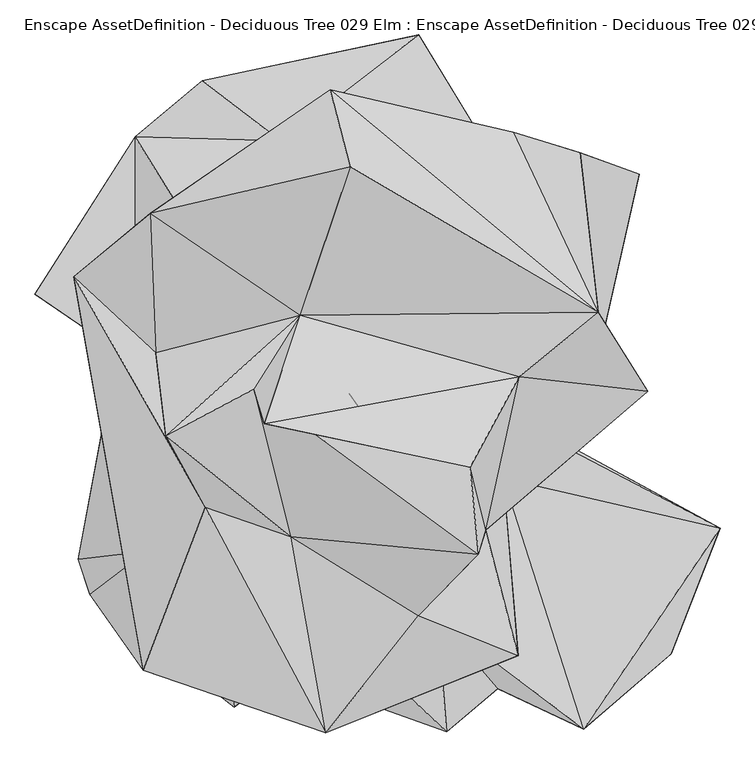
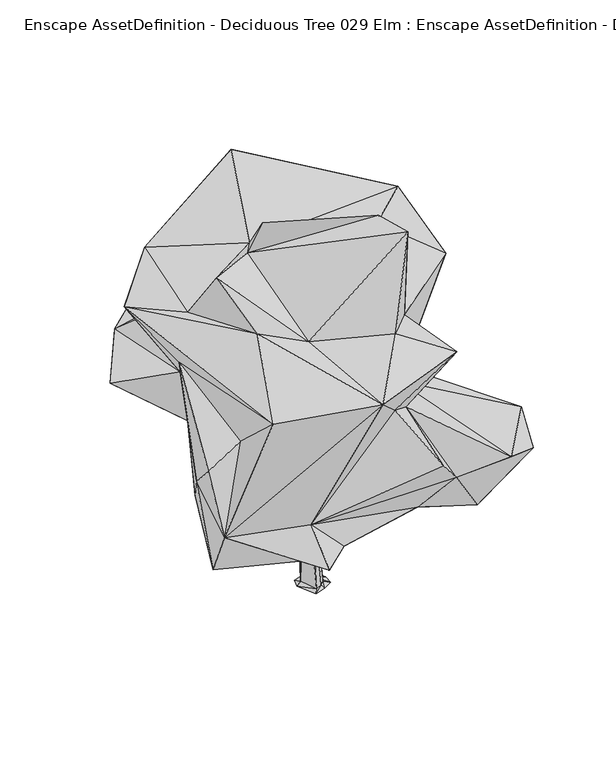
"""IFC4 building model written with IfcOpenShell, lengths in millimetres: geographic element geometry, Enscape AssetDefinition - Deciduous Tree 029 Elm : Enscape AssetDefinition - Deciduous Tree 029 Elm."""

from ifc_helpers import new_model, si_unit, origin, place, context, project, spatial, triangles, source, transform, mapped, element, save


def enscape_assetdefinition_deciduous_tree_029_elm_enscape_e4c49baf(model_context):
    return source(origin(), model_context, "Body", "Tessellation", [
        triangles([(375.0216585, -138.111846, -7.46e-05), (219.6287998, -107.962905, 63.327866), (391.4856245, 85.2279101, 4.6e-05), (173.7818344, 423.6344616, 0.0002288), (167.2728567, 107.3338464, 44.4670078), (22.5749779, 171.3340369, 3325.0688438), (88.0299102, 257.3416504, 34.0090955), (-14.1009868, 76.8111091, 3336.4207672), (161.2598516, -271.0346918, -0.0001464), (-88.1359175, -351.8476007, -0.00019), (122.2138883, -203.3707623, 61.3968202), (96.4399074, 167.1642151, 4788.8074059), (-94.2439113, 182.1882435, 4744.0735085), (-37.9929617, -287.8606997, 68.114765), (-186.9378264, 100.4228311, 80.1529564), (-137.9058629, 37.07717, 3309.5628136), (-241.4427662, 178.6620053, 3316.1987457), (-119.9948831, 187.4907542, 55.1230343), (-74.6759242, 364.8150141, 4752.3884079), (-185.2158385, 274.4608817, 3300.002932), (-284.2897512, 82.0549024, 4.43e-05), (-220.5847916, 292.2346514, 0.0001578), (22.5609776, 379.581918, 4774.4408409), (133.1158755, 261.6870974, 4777.4543198), (-87.9799223, 289.2288938, 3322.0550743), (-71.9809307, 74.1163063, 2984.1056442), (-5.6349946, 202.1981413, 2990.9366226), (1371.9207653, -744.6131979, 3865.8099655), (582.4144501, -122.948709, 3430.3475922), (519.1825175, -238.9385586, 3424.4607422), (-133.2738691, 99.5222138, 3086.5171257), (1425.666758, -646.3283541, 3870.7730347), (468.7085272, -217.1256459, 3533.4546707), (531.9414771, -101.134788, 3539.3418114), (-66.9279415, 227.6040397, 3093.3475227), (1480.502655, -670.0702188, 3754.5359436), (1426.7566624, -768.3550627, 3749.5720024), (111.2028962, 1285.4030811, 4368.7095016), (-9.5939911, 233.9455313, 4063.5999275), (-127.6338881, 240.8515051, 4077.5662262), (100.4259014, 1297.3134007, 4262.1517616), (-116.6448878, 219.8294779, 4175.3396187), (8.7809917, 1304.5133972, 4271.9912773), (1.3949987, 212.9244852, 4161.3750641), (19.5579836, 1292.6022057, 4378.5472733), (-80.0759171, 278.4468484, 3373.908886), (-631.5184296, 899.3844921, 4388.7553711), (-769.8592587, 895.5566008, 4285.9162994), (-683.0203732, 966.4245134, 4289.0806412), (-134.2538783, 116.8890044, 3454.4147278), (-189.8178105, 184.6869827, 3369.5248512), (-718.3573151, 828.5165068, 4385.590448), (-24.5139765, 210.6488791, 3458.7999252), (-2782.4801605, 548.6531387, 5948.0067078), (-2782.8173492, 3228.4671822, 5394.0323822), (-3971.055867, 1361.7315617, 5582.3110062), (-1863.6561573, 658.5106047, 4844.9597923), (-2599.8904335, 557.0898694, 4652.5831627), (-1673.2823124, 1019.7884073, 4384.276284), (-1735.6402794, 3157.8456207, 4049.1638901), (-865.5901886, 1599.8260403, 3706.2705757), (-1503.1466217, -69.7270802, 4006.0926819), (777.6062422, -216.8793128, 4776.8837151), (936.7791573, 2482.6368347, 4365.2152382), (325.1047199, 3203.942807, 3759.6272026), (2498.7474792, 3038.7444603, 6923.3931015), (1575.1794342, 2810.1287636, 5749.7536926), (1735.9052341, -91.3230776, 4028.9848892), (2397.4046825, -490.4989486, 4704.4483109), (3201.1796036, 2786.6944382, 4603.7750954), (2690.8973785, 523.9463983, 5467.3267456), (-1055.6620171, 3183.7437492, 5797.8618027), (-467.2735494, 3789.0771492, 7589.2617599), (1707.3123573, 3284.0335579, 6544.6330811), (1776.5181622, 381.0390965, 8168.0374786), (3304.1500626, 205.360957, 6989.9983383), (2715.1092728, 1142.408103, 8295.1337906), (1589.9714092, -822.1897127, 5018.7762177), (1377.9866741, -1440.6001488, 7124.7360443), (581.3434035, -2458.8743317, 7536.6574127), (-1372.3066429, 231.8230772, 8616.0275757), (-1249.2147377, -175.95999, 9575.3928543), (1193.6469086, -696.2181868, 9221.7045593), (1293.5427006, -1724.3230923, 9400.6424744), (-2417.7176868, -317.89633, 8696.6703278), (-934.5681004, -1520.0521305, 7309.3654724), (-2535.3934982, 665.8713472, 7279.3417236), (-1950.4171406, -1170.2258818, 7644.1363174), (-819.0981863, 1107.1173065, 8145.6202423), (-230.1757759, 2873.9405663, 9197.972287), (-2599.8587494, 2317.4659573, 7926.165033), (-1994.1322048, 1962.406089, 6574.14814), (-3509.2587639, 1569.0440529, 7203.287645), (-3128.7319908, -21.150569, 6649.9324677), (-3458.7766708, -1785.346693, 5106.6842239), (-2686.6086868, -3103.5460281, 6820.7237869), (-2645.8204788, -1690.6418633, 5524.7784714), (-2912.6460526, -293.1505112, 3418.3465805), (-3302.6126564, -1021.3462337, 4340.6213905), (-3257.3398384, -1626.9762726, 2480.7404388), (-1015.0740149, -1038.086273, 2881.0122276), (-1608.0505383, -3539.6281311, 3060.8471809), (-1270.1098286, -1757.6180077, 2081.9846912), (1209.9658253, -1198.5774216, 3347.1811569), (-999.7750214, -3089.8355278, 3174.3193245), (-3320.6917854, -2203.0243961, 3652.3651451), (-1676.3924423, -2907.579792, 3837.8878326), (174.9888283, -3138.5880753, 6184.3417007), (769.4292704, -3022.4111549, 3488.6100243), (2333.6236919, -2767.71362, 2839.0973442), (1521.6385162, -3320.3950012, 4144.7609619), (915.2591045, -3833.8409866, 4961.3477463), (810.5122278, -2489.4922302, 5655.1914413), (-522.1095191, -3848.0101799, 6997.8809967), (1762.7512699, -2928.521537, 6965.5818054), (2540.9606003, -3800.5479607, 4602.1685074), (3579.7797501, -2909.2532364, 3919.209613), (4160.3341393, -1417.1174252, 3834.06045), (2277.8688103, -1642.4487293, 3072.1723618), (584.5724216, 4436.8001129, 5394.3811981), (-1984.1261295, 3895.9976578, 5447.9424637)], [[121, 120, 60], [60, 55, 121], [121, 55, 72], [72, 120, 121], [92, 72, 55], [104, 68, 119], [78, 118, 69], [69, 118, 68], [68, 118, 119], [117, 119, 118], [116, 117, 118], [78, 116, 118], [113, 78, 115], [113, 116, 78], [97, 106, 96], [106, 114, 96], [115, 108, 113], [108, 115, 114], [108, 112, 113], [116, 111, 117], [112, 111, 113], [113, 111, 116], [119, 117, 110], [117, 111, 110], [110, 111, 109], [119, 110, 109], [107, 109, 111], [107, 112, 108], [107, 114, 106], [107, 108, 114], [112, 107, 111], [102, 107, 106], [105, 107, 102], [109, 107, 105], [119, 109, 105], [105, 104, 119], [101, 104, 105], [105, 102, 103], [101, 105, 103], [103, 102, 106], [103, 106, 100], [101, 98, 62], [101, 103, 98], [103, 100, 98], [100, 106, 99], [98, 100, 99], [97, 95, 106], [99, 106, 95], [96, 94, 97], [95, 97, 94], [95, 94, 99], [94, 96, 93], [92, 93, 91], [90, 73, 91], [72, 92, 91], [72, 91, 73], [89, 90, 91], [91, 93, 87], [89, 91, 87], [93, 88, 87], [96, 114, 88], [96, 88, 93], [85, 87, 88], [89, 87, 85], [85, 88, 86], [88, 114, 86], [115, 80, 114], [114, 80, 86], [86, 80, 84], [81, 85, 86], [89, 85, 81], [81, 86, 84], [82, 89, 81], [82, 81, 83], [83, 81, 84], [79, 84, 80], [79, 80, 115], [83, 84, 79], [78, 79, 115], [82, 75, 89], [83, 75, 82], [83, 79, 75], [79, 76, 75], [78, 76, 79], [78, 69, 71], [76, 78, 71], [77, 73, 90], [71, 77, 76], [75, 76, 77], [89, 75, 77], [77, 90, 89], [72, 73, 74], [77, 74, 73], [66, 74, 77], [66, 77, 71], [70, 66, 71], [71, 69, 70], [68, 70, 69], [66, 67, 74], [74, 67, 72], [70, 67, 66], [72, 67, 120], [65, 120, 67], [65, 60, 120], [65, 67, 64], [64, 70, 68], [67, 70, 64], [61, 65, 64], [61, 60, 65], [61, 64, 68], [63, 68, 104], [63, 61, 68], [63, 104, 101], [59, 101, 62], [63, 59, 61], [59, 60, 61], [98, 59, 62], [59, 63, 101], [60, 59, 57], [55, 60, 57], [59, 58, 57], [98, 99, 58], [98, 58, 59], [56, 57, 58], [55, 57, 56], [54, 93, 92], [92, 55, 54], [56, 58, 54], [54, 94, 93], [54, 99, 94], [58, 99, 54], [54, 55, 56], [53, 47, 52], [53, 52, 50], [50, 52, 48], [50, 48, 51], [51, 48, 49], [51, 49, 46], [46, 47, 53], [46, 49, 47], [44, 38, 45], [44, 45, 42], [42, 45, 43], [42, 43, 40], [40, 43, 41], [40, 41, 39], [39, 38, 44], [39, 41, 38], [29, 36, 37], [35, 29, 27], [34, 36, 29], [34, 32, 36], [35, 34, 29], [31, 34, 35], [33, 32, 34], [33, 28, 32], [31, 33, 34], [29, 37, 30], [30, 28, 33], [30, 37, 28], [27, 29, 30], [27, 30, 26], [26, 33, 31], [26, 30, 33], [6, 24, 12], [25, 24, 6], [25, 23, 24], [20, 23, 25], [20, 19, 23], [7, 20, 25], [7, 18, 20], [4, 18, 7], [4, 22, 18], [22, 15, 18], [22, 21, 15], [17, 19, 20], [18, 17, 20], [18, 15, 17], [17, 13, 19], [16, 13, 17], [15, 16, 17], [15, 14, 16], [21, 14, 15], [21, 10, 14], [8, 13, 16], [8, 12, 13], [6, 12, 8], [14, 8, 16], [14, 11, 8], [10, 11, 14], [10, 9, 11], [11, 2, 8], [2, 6, 8], [9, 2, 11], [5, 25, 6], [5, 7, 25], [2, 5, 6], [3, 7, 5], [3, 4, 7], [9, 1, 2], [1, 5, 2], [1, 3, 5]], closed=False),
    ])


if __name__ == "__main__":
    model = new_model("IFC4")
    model_context = context("Model", 3, world=origin())
    ifc_project = project(units=[si_unit("LENGTHUNIT", "METRE", prefix="MILLI")], contexts=[model_context])
    site = spatial("IfcSite", under=ifc_project)
    building = spatial("IfcBuilding", under=site)
    placement = place(None, origin())
    enscape_assetdefinition_deciduous_tree_029_elm_enscape_shape = enscape_assetdefinition_deciduous_tree_029_elm_enscape_e4c49baf(model_context)
    element("IfcGeographicElement", 1, ObjectType="Enscape AssetDefinition - Deciduous Tree 029 Elm : Enscape AssetDefinition - Deciduous Tree 029 Elm", at=placement, inside=building, context=model_context, shape_type="MappedRepresentation", body=[
        mapped(enscape_assetdefinition_deciduous_tree_029_elm_enscape_shape, transform((0.0, 0.0, 0.0), x_axis=(1.0, 0.0, 0.0), y_axis=(0.0, 1.0, 0.0), z_axis=(0.0, 0.0, 1.0))),
    ])
    save(model, "model.ifc")
